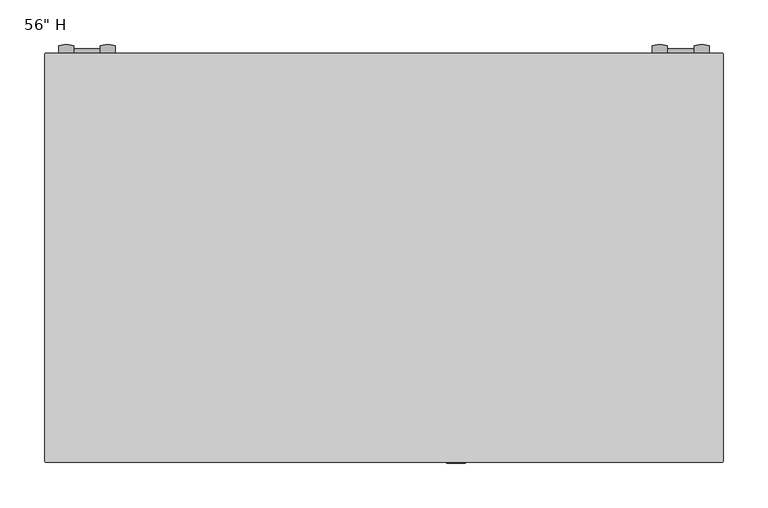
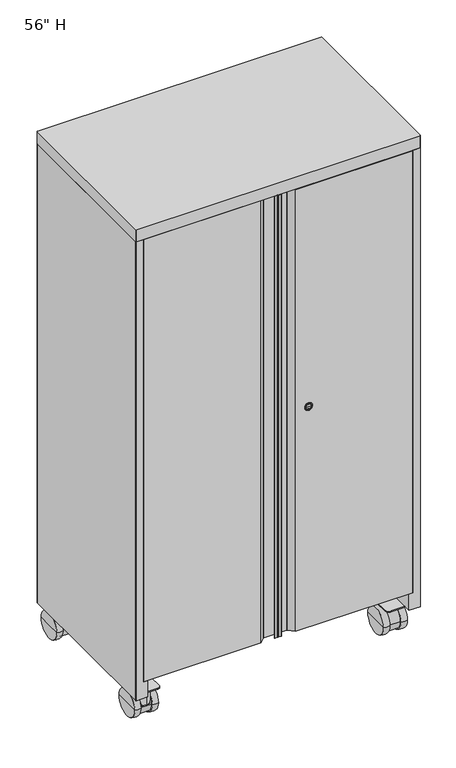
"""IFC4 building model written with IfcOpenShell, lengths in millimetres: furniture geometry."""

from ifc_helpers import new_model, si_unit, point, frame, frame_2d, origin, place, context, project, spatial, polyline, circle_curve, ellipse_curve, trimmed, segment, composite_curve, outline, extrude, source, transform, mapped, element, save
from ifc_brep_helpers import plane_surface, cylinder_surface, revolved_surface, advanced_brep


def furniture_2ed382e0(model_context):
    return source(origin(), model_context, "Body", "SolidModel", [
        advanced_brep(
        [(88.6603165, -458.3625601, 761.3872823), (72.9815101, -458.3625601, 761.3872823), (79.6779133, -458.3625601, 761.3872823), (79.6779133, -458.3625601, 757.8880767), (81.9639133, -458.3625601, 757.8880767), (81.9639133, -458.3625601, 761.3872823), (81.9639133, -458.3625601, 765.8652642), (79.6779133, -458.3625601, 765.8652642), (88.6603165, -459.4055635, 761.3872823), (72.9815101, -459.4055635, 761.3872823), (88.1158199, -459.9500601, 761.3872823), (73.5260067, -459.9500601, 761.3872823), (81.9639133, -459.9500601, 761.3872823), (81.9639133, -459.9500601, 757.8880767), (79.6779133, -459.9500601, 757.8880767), (79.6779133, -459.9500601, 761.3872823), (79.6779133, -459.9500601, 765.8652642), (81.9639133, -459.9500601, 765.8652642)],
        [
            (0, 1, circle_curve(frame((80.8209133, -458.3625601, 761.3872823), z_axis=(0.0, 1.0, 0.0), x_axis=(-1.0, 0.0, 0.0)), 7.8394032)),
            (1, 2),
            (2, 3),
            (3, 4),
            (4, 5),
            (5, 0),
            (1, 0, circle_curve(frame((80.8209133, -458.3625601, 761.3872823), z_axis=(0.0, 1.0, 0.0), x_axis=(-1.0, 0.0, 0.0)), 7.8394032)),
            (5, 6),
            (6, 7),
            (7, 2),
            (0, 8),
            (8, 9, circle_curve(frame((80.8209133, -459.4055635, 761.3872823), z_axis=(0.0, 1.0, 0.0), x_axis=(-1.0, 0.0, 0.0)), 7.8394032)),
            (9, 1),
            (9, 8, circle_curve(frame((80.8209133, -459.4055635, 761.3872823), z_axis=(0.0, 1.0, 0.0), x_axis=(-1.0, 0.0, 0.0)), 7.8394032)),
            (8, 10, circle_curve(frame((88.1158199, -459.4055635, 761.3872823), z_axis=(0.0, 0.0, -1.0), x_axis=(-1.0, 0.0, 0.0)), 0.5444966)),
            (10, 11, circle_curve(frame((80.8209133, -459.9500601, 761.3872823), z_axis=(0.0, 1.0, 0.0), x_axis=(-1.0, 0.0, 0.0)), 7.2949066)),
            (11, 9, circle_curve(frame((73.5260067, -459.4055635, 761.3872823), z_axis=(0.0, 0.0, -1.0), x_axis=(1.0, 0.0, 0.0)), 0.5444966)),
            (11, 10, circle_curve(frame((80.8209133, -459.9500601, 761.3872823), z_axis=(0.0, 1.0, 0.0), x_axis=(-1.0, 0.0, 0.0)), 7.2949066)),
            (10, 12),
            (12, 13),
            (13, 14),
            (14, 15),
            (15, 11),
            (15, 16),
            (16, 17),
            (17, 12),
            (6, 17),
            (16, 7),
            (14, 3),
            (13, 4),
        ],
        [
            plane_surface(frame((80.8209133, -458.3625601, 761.3872823), z_axis=(0.0, 1.0, 0.0), x_axis=(-1.0, 0.0, 0.0))),
            cylinder_surface(frame((80.8209133, -458.3625601, 761.3872823), z_axis=(0.0, -1.0, 0.0), x_axis=(-1.0, 0.0, 0.0)), 7.8394032),
            revolved_surface(trimmed(ellipse_curve(frame((73.5260067, -459.4055635, 761.3872823), z_axis=(0.0, 0.0, 1.0), x_axis=(1.0, 0.0, 0.0)), 0.5444966, 0.5444966), [point((72.9815101, -459.4055635, 761.3872823))], [point((73.5260067, -459.9500601, 761.3872823))], True, "CARTESIAN"), (80.8209133, -458.3625601, 761.3872823), (0.0, -1.0, 0.0)),
            plane_surface(frame((80.8209133, -459.9500601, 761.3872823), z_axis=(0.0, -1.0, 0.0), x_axis=(-1.0, 0.0, 0.0))),
            plane_surface(frame((81.9639133, -461.8140845, 765.8652642), z_axis=(0.0, 0.0, -1.0), x_axis=(0.0, 1.0, 0.0))),
            plane_surface(frame((79.6779133, -461.8140845, 765.8652642), z_axis=(1.0, 0.0, 0.0), x_axis=(0.0, 1.0, 0.0))),
            plane_surface(frame((79.6779133, -461.8140845, 757.8880767), z_axis=(0.0, 0.0, 1.0), x_axis=(0.0, 1.0, 0.0))),
            plane_surface(frame((81.9639133, -461.8140845, 757.8880767), z_axis=(-1.0, 0.0, 0.0), x_axis=(0.0, 1.0, 0.0))),
        ],
        [
            (0, [[1, 2, 3, 4, 5, 6]]),
            (0, [[7, -6, 8, 9, 10, -2]]),
            (1, [[-1, 11, 12, 13]]),
            (1, [[-7, -13, 14, -11]]),
            (2, [[-12, 15, 16, 17]]),
            (2, [[-14, -17, 18, -15]]),
            (3, [[-16, 19, 20, 21, 22, 23]]),
            (3, [[-18, -23, 24, 25, 26, -19]]),
            (4, [[27, -25, 28, -9]]),
            (5, [[-28, -24, -22, 29, -3, -10]]),
            (6, [[-29, -21, 30, -4]]),
            (7, [[-27, -8, -5, -30, -20, -26]]),
        ],
    ),
        advanced_brep(
        [(91.2894727, -459.1486557, 761.3872823), (70.3523539, -459.1486557, 761.3872823), (70.3523539, -458.3625601, 761.3872823), (91.2894727, -458.3625601, 761.3872823), (90.4880683, -459.9500601, 761.3872823), (71.1537583, -459.9500601, 761.3872823), (88.8219133, -459.9500601, 761.3872823), (72.8199133, -459.9500601, 761.3872823), (88.8219133, -458.3625601, 761.3872823), (72.8199133, -458.3625601, 761.3872823)],
        [
            (0, 1, circle_curve(frame((80.8209133, -459.1486557, 761.3872823), z_axis=(0.0, 1.0, 0.0), x_axis=(-1.0, 0.0, 0.0)), 10.4685594)),
            (1, 2),
            (2, 3, circle_curve(frame((80.8209133, -458.3625601, 761.3872823), z_axis=(0.0, -1.0, 0.0), x_axis=(-1.0, 0.0, 0.0)), 10.4685594)),
            (3, 0),
            (1, 0, circle_curve(frame((80.8209133, -459.1486557, 761.3872823), z_axis=(0.0, 1.0, 0.0), x_axis=(-1.0, 0.0, 0.0)), 10.4685594)),
            (3, 2, circle_curve(frame((80.8209133, -458.3625601, 761.3872823), z_axis=(0.0, -1.0, 0.0), x_axis=(-1.0, 0.0, 0.0)), 10.4685594)),
            (4, 5, circle_curve(frame((80.8209133, -459.9500601, 761.3872823), z_axis=(0.0, 1.0, 0.0), x_axis=(-1.0, 0.0, 0.0)), 9.667155)),
            (5, 1, circle_curve(frame((71.1537583, -459.1486557, 761.3872823), z_axis=(0.0, 0.0, -1.0), x_axis=(1.0, 0.0, 0.0)), 0.8014044)),
            (0, 4, circle_curve(frame((90.4880683, -459.1486557, 761.3872823), z_axis=(0.0, 0.0, -1.0), x_axis=(-1.0, 0.0, 0.0)), 0.8014044)),
            (5, 4, circle_curve(frame((80.8209133, -459.9500601, 761.3872823), z_axis=(0.0, 1.0, 0.0), x_axis=(-1.0, 0.0, 0.0)), 9.667155)),
            (6, 7, circle_curve(frame((80.8209133, -459.9500601, 761.3872823), z_axis=(0.0, 1.0, 0.0), x_axis=(-1.0, 0.0, 0.0)), 8.001)),
            (7, 5),
            (4, 6),
            (7, 6, circle_curve(frame((80.8209133, -459.9500601, 761.3872823), z_axis=(0.0, 1.0, 0.0), x_axis=(-1.0, 0.0, 0.0)), 8.001)),
            (8, 9, circle_curve(frame((80.8209133, -458.3625601, 761.3872823), z_axis=(0.0, 1.0, 0.0), x_axis=(-1.0, 0.0, 0.0)), 8.001)),
            (9, 7),
            (6, 8),
            (9, 8, circle_curve(frame((80.8209133, -458.3625601, 761.3872823), z_axis=(0.0, 1.0, 0.0), x_axis=(-1.0, 0.0, 0.0)), 8.001)),
            (2, 9),
            (8, 3),
        ],
        [
            cylinder_surface(frame((80.8209133, -458.3625601, 761.3872823), z_axis=(0.0, -1.0, 0.0), x_axis=(-1.0, 0.0, 0.0)), 10.4685594),
            revolved_surface(trimmed(ellipse_curve(frame((71.1537583, -459.1486557, 761.3872823), z_axis=(0.0, 0.0, 1.0), x_axis=(1.0, 0.0, 0.0)), 0.8014044, 0.8014044), [point((70.3523539, -459.1486557, 761.3872823))], [point((71.1537583, -459.9500601, 761.3872823))], True, "CARTESIAN"), (80.8209133, -458.3625601, 761.3872823), (0.0, -1.0, 0.0)),
            plane_surface(frame((80.8209133, -459.9500601, 761.3872823), z_axis=(0.0, -1.0, 0.0), x_axis=(-1.0, 0.0, 0.0))),
            revolved_surface(polyline([(72.8199133, -459.9500601, 761.3872823), (72.8199133, -458.3625601, 761.3872823)]), (80.8209133, -458.3625601, 761.3872823), (0.0, -1.0, 0.0)),
            plane_surface(frame((80.8209133, -458.3625601, 761.3872823), z_axis=(0.0, 1.0, 0.0), x_axis=(-1.0, 0.0, 0.0))),
        ],
        [
            (0, [[1, 2, 3, 4]]),
            (0, [[5, -4, 6, -2]]),
            (1, [[7, 8, -1, 9]]),
            (1, [[10, -9, -5, -8]]),
            (2, [[11, 12, -7, 13]]),
            (2, [[14, -13, -10, -12]]),
            (3, [[15, 16, -11, 17]]),
            (3, [[18, -17, -14, -16]]),
            (4, [[-3, 19, -15, 20]]),
            (4, [[-6, -20, -18, -19]]),
        ],
    ),
        extrude(outline(composite_curve([segment(trimmed(circle_curve(frame_2d((359.8912317, -444.4487543)), 1.7488347), [point((359.8912317, -442.6999196))], [point((361.6400664, -444.4487543))], False, "CARTESIAN"), True, "CONTINUOUS"), segment(polyline([(361.6400664, -444.4487543), (361.6400664, -456.8847713)]), True, "CONTINUOUS"), segment(trimmed(circle_curve(frame_2d((359.9571474, -456.8847713)), 1.682919), [point((361.6400664, -456.8847713))], [point((359.9571474, -458.5676903))], False, "CARTESIAN"), True, "CONTINUOUS"), segment(polyline([(359.9571474, -458.5676903), (45.8720499, -458.5676903), (31.3092055, -444.0048817)]), True, "CONTINUOUS"), segment(trimmed(circle_curve(frame_2d((30.1499168, -445.1641732)), 1.6394839), [point((31.3092055, -444.0048817))], [point((30.1514841, -443.5246901))], True, "CARTESIAN"), True, "CONTINUOUS"), segment(polyline([(30.1514841, -443.5246901), (1.648086, -443.4974421)]), True, "CONTINUOUS"), segment(trimmed(circle_curve(frame_2d((1.6473254, -444.293138)), 0.7956963), [point((1.648086, -443.4974421))], [point((0.8516291, -444.2931415))], True, "CARTESIAN"), True, "CONTINUOUS"), segment(polyline([(0.8516291, -444.2931415), (0.8516804, -456.0246332)]), True, "CONTINUOUS"), segment(trimmed(circle_curve(frame_2d((1.4004305, -456.0246308)), 0.5487501), [point((0.8516804, -456.0246332))], [point((1.4004305, -456.5733809))], True, "CARTESIAN"), True, "CONTINUOUS"), segment(polyline([(1.4004305, -456.5733809), (8.5347577, -456.5733809)]), True, "CONTINUOUS"), segment(trimmed(circle_curve(frame_2d((8.5347577, -457.5705356)), 0.9971547), [point((8.5347577, -456.5733809))], [point((8.5347577, -458.5676903))], False, "CARTESIAN"), True, "CONTINUOUS"), segment(polyline([(8.5347577, -458.5676903), (1.6618455, -458.5676903)]), True, "CONTINUOUS"), segment(trimmed(circle_curve(frame_2d((1.6618455, -456.9058447)), 1.6618455), [point((1.6618455, -458.5676903))], [point((0.0, -456.9058447))], False, "CARTESIAN"), True, "CONTINUOUS"), segment(polyline([(0.0, -456.9058447), (0.0, -444.5770588)]), True, "CONTINUOUS"), segment(trimmed(circle_curve(frame_2d((1.8771392, -444.5770588)), 1.8771392), [point((0.0, -444.5770588))], [point((1.8771392, -442.6999196))], False, "CARTESIAN"), True, "CONTINUOUS"), segment(polyline([(1.8771392, -442.6999196), (359.8912317, -442.6999196)]), True, "CONTINUOUS")], self_intersect=False)), frame((0.0, 0.0, 137.2588286), z_axis=(0.0, 0.0, 1.0), x_axis=(1.0, 0.0, 0.0)), (0.0, 0.0, 1.0), 1249.2356835),
        extrude(outline(composite_curve([segment(polyline([(-359.8912317, -442.6999196), (-1.8771392, -442.6999196)]), True, "CONTINUOUS"), segment(trimmed(circle_curve(frame_2d((-1.8771392, -444.5770588)), 1.8771392), [point((-1.8771392, -442.6999196))], [point((0.0, -444.5770588))], False, "CARTESIAN"), True, "CONTINUOUS"), segment(polyline([(0.0, -444.5770588), (0.0, -456.9058447)]), True, "CONTINUOUS"), segment(trimmed(circle_curve(frame_2d((-1.6618455, -456.9058447)), 1.6618455), [point((0.0, -456.9058447))], [point((-1.6618455, -458.5676903))], False, "CARTESIAN"), True, "CONTINUOUS"), segment(polyline([(-1.6618455, -458.5676903), (-8.5347577, -458.5676903)]), True, "CONTINUOUS"), segment(trimmed(circle_curve(frame_2d((-8.5347577, -457.5705356)), 0.9971547), [point((-8.5347577, -458.5676903))], [point((-8.5347577, -456.5733809))], False, "CARTESIAN"), True, "CONTINUOUS"), segment(polyline([(-8.5347577, -456.5733809), (-1.4004305, -456.5733809)]), True, "CONTINUOUS"), segment(trimmed(circle_curve(frame_2d((-1.4004305, -456.0246308)), 0.5487501), [point((-1.4004305, -456.5733809))], [point((-0.8516804, -456.0246332))], True, "CARTESIAN"), True, "CONTINUOUS"), segment(polyline([(-0.8516804, -456.0246332), (-0.8516291, -444.2931415)]), True, "CONTINUOUS"), segment(trimmed(circle_curve(frame_2d((-1.6473254, -444.293138)), 0.7956963), [point((-0.8516291, -444.2931415))], [point((-1.648086, -443.4974421))], True, "CARTESIAN"), True, "CONTINUOUS"), segment(polyline([(-1.648086, -443.4974421), (-30.1514841, -443.5246901)]), True, "CONTINUOUS"), segment(trimmed(circle_curve(frame_2d((-30.1499168, -445.1641732)), 1.6394839), [point((-30.1514841, -443.5246901))], [point((-31.3092055, -444.0048817))], True, "CARTESIAN"), True, "CONTINUOUS"), segment(polyline([(-31.3092055, -444.0048817), (-45.8720499, -458.5676903), (-359.9571474, -458.5676903)]), True, "CONTINUOUS"), segment(trimmed(circle_curve(frame_2d((-359.9571474, -456.8847713)), 1.682919), [point((-359.9571474, -458.5676903))], [point((-361.6400664, -456.8847713))], False, "CARTESIAN"), True, "CONTINUOUS"), segment(polyline([(-361.6400664, -456.8847713), (-361.6400664, -444.4487543)]), True, "CONTINUOUS"), segment(trimmed(circle_curve(frame_2d((-359.8912317, -444.4487543)), 1.7488347), [point((-361.6400664, -444.4487543))], [point((-359.8912317, -442.6999196))], False, "CARTESIAN"), True, "CONTINUOUS")], self_intersect=False)), frame((0.0, 0.0, 137.2588286), z_axis=(0.0, 0.0, 1.0), x_axis=(1.0, 0.0, 0.0)), (0.0, 0.0, 1.0), 1249.2356835),
        advanced_brep(
        [(-301.463296, -425.1483141, 37.3595315), (-301.463296, -352.6668371, 37.3595315), (-301.463296, -388.9075756, 37.3595315), (-318.2202446, -425.1483141, 37.3595315), (-318.2202446, -352.6668371, 37.3595315), (-318.2202446, -421.9716185, 37.3595315), (-318.2202446, -355.8435328, 37.3595315), (-348.2146314, -421.9716185, 37.3595315), (-348.2146314, -355.8435328, 37.3595315), (-348.2146314, -425.1483141, 37.3595315), (-348.2146314, -352.6668371, 37.3595315), (-364.9632967, -425.1483141, 37.3595315), (-364.9632967, -352.6668371, 37.3595315), (-364.9632967, -388.9075756, 37.3595315)],
        [
            (0, 1, circle_curve(frame((-301.463296, -388.9075756, 37.3595315), z_axis=(1.0, 0.0, 0.0), x_axis=(0.0, 1.0, 0.0)), 36.2407385)),
            (1, 2),
            (2, 0),
            (1, 0, circle_curve(frame((-301.463296, -388.9075756, 37.3595315), z_axis=(1.0, 0.0, 0.0), x_axis=(0.0, 1.0, 0.0)), 36.2407385)),
            (3, 4, circle_curve(frame((-318.2202446, -388.9075756, 37.3595315), z_axis=(1.0, 0.0, 0.0), x_axis=(0.0, 1.0, 0.0)), 36.2407385)),
            (4, 1, circle_curve(frame((-309.8417703, -379.9216665, 37.3595315), z_axis=(0.0, 0.0, -1.0), x_axis=(-1.0, 0.0, 0.0)), 28.5135855)),
            (0, 3, circle_curve(frame((-309.8417703, -397.8934847, 37.3595315), z_axis=(0.0, 0.0, -1.0), x_axis=(-1.0, 0.0, 0.0)), 28.5135855)),
            (4, 3, circle_curve(frame((-318.2202446, -388.9075756, 37.3595315), z_axis=(1.0, 0.0, 0.0), x_axis=(0.0, 1.0, 0.0)), 36.2407385)),
            (5, 6, circle_curve(frame((-318.2202446, -388.9075756, 37.3595315), z_axis=(1.0, 0.0, 0.0), x_axis=(0.0, 1.0, 0.0)), 33.0640429)),
            (6, 4),
            (3, 5),
            (6, 5, circle_curve(frame((-318.2202446, -388.9075756, 37.3595315), z_axis=(1.0, 0.0, 0.0), x_axis=(0.0, 1.0, 0.0)), 33.0640429)),
            (7, 8, circle_curve(frame((-348.2146314, -388.9075756, 37.3595315), z_axis=(1.0, 0.0, 0.0), x_axis=(0.0, 1.0, 0.0)), 33.0640429)),
            (8, 6),
            (5, 7),
            (8, 7, circle_curve(frame((-348.2146314, -388.9075756, 37.3595315), z_axis=(1.0, 0.0, 0.0), x_axis=(0.0, 1.0, 0.0)), 33.0640429)),
            (9, 10, circle_curve(frame((-348.2146314, -388.9075756, 37.3595315), z_axis=(1.0, 0.0, 0.0), x_axis=(0.0, 1.0, 0.0)), 36.2407385)),
            (10, 8),
            (7, 9),
            (10, 9, circle_curve(frame((-348.2146314, -388.9075756, 37.3595315), z_axis=(1.0, 0.0, 0.0), x_axis=(0.0, 1.0, 0.0)), 36.2407385)),
            (11, 12, circle_curve(frame((-364.9632967, -388.9075756, 37.3595315), z_axis=(1.0, 0.0, 0.0), x_axis=(0.0, 1.0, 0.0)), 36.2407385)),
            (12, 10, circle_curve(frame((-356.5889641, -379.880126, 37.3595315), z_axis=(0.0, 0.0, -1.0), x_axis=(-1.0, 0.0, 0.0)), 28.472663)),
            (9, 11, circle_curve(frame((-356.5889641, -397.9350253, 37.3595315), z_axis=(0.0, 0.0, -1.0), x_axis=(-1.0, 0.0, 0.0)), 28.472663)),
            (12, 11, circle_curve(frame((-364.9632967, -388.9075756, 37.3595315), z_axis=(1.0, 0.0, 0.0), x_axis=(0.0, 1.0, 0.0)), 36.2407385)),
            (13, 12),
            (11, 13),
        ],
        [
            plane_surface(frame((-301.463296, -388.9075756, 37.3595315), z_axis=(1.0, 0.0, 0.0), x_axis=(0.0, 1.0, 0.0))),
            revolved_surface(trimmed(ellipse_curve(frame((-309.8417703, -379.9216665, 37.3595315), z_axis=(0.0, 0.0, 1.0), x_axis=(-1.0, 0.0, 0.0)), 28.5135855, 28.5135855), [point((-301.463296, -352.6668371, 37.3595315))], [point((-318.2202446, -352.6668371, 37.3595315))], True, "CARTESIAN"), (-325.591828, -388.9075756, 37.3595315), (-1.0, 0.0, 0.0)),
            plane_surface(frame((-318.2202446, -388.9075756, 37.3595315), z_axis=(-1.0, 0.0, 0.0), x_axis=(0.0, 1.0, 0.0))),
            cylinder_surface(frame((-325.591828, -388.9075756, 37.3595315), z_axis=(-1.0, 0.0, 0.0), x_axis=(0.0, 1.0, 0.0)), 33.0640429),
            plane_surface(frame((-348.2146314, -388.9075756, 37.3595315), z_axis=(1.0, 0.0, 0.0), x_axis=(0.0, 1.0, 0.0))),
            revolved_surface(trimmed(ellipse_curve(frame((-356.5889641, -379.880126, 37.3595315), z_axis=(0.0, 0.0, 1.0), x_axis=(-1.0, 0.0, 0.0)), 28.472663, 28.472663), [point((-348.2146314, -352.6668371, 37.3595315))], [point((-364.9632967, -352.6668371, 37.3595315))], True, "CARTESIAN"), (-325.591828, -388.9075756, 37.3595315), (-1.0, 0.0, 0.0)),
            plane_surface(frame((-364.9632967, -388.9075756, 37.3595315), z_axis=(-1.0, 0.0, 0.0), x_axis=(0.0, 1.0, 0.0))),
        ],
        [
            (0, [[1, 2, 3]]),
            (0, [[4, -3, -2]]),
            (1, [[5, 6, -1, 7]]),
            (1, [[8, -7, -4, -6]]),
            (2, [[9, 10, -5, 11]]),
            (2, [[12, -11, -8, -10]]),
            (3, [[13, 14, -9, 15]]),
            (3, [[16, -15, -12, -14]]),
            (4, [[17, 18, -13, 19]]),
            (4, [[20, -19, -16, -18]]),
            (5, [[21, 22, -17, 23]]),
            (5, [[24, -23, -20, -22]]),
            (6, [[25, -21, 26]]),
            (6, [[-26, -24, -25]]),
        ],
    ),
        advanced_brep(
        [(364.7809449, -425.1483141, 37.3595315), (364.7809449, -352.6668371, 37.3595315), (364.7809449, -388.9075756, 37.3595315), (348.0239963, -425.1483141, 37.3595315), (348.0239963, -352.6668371, 37.3595315), (348.0239963, -421.9716185, 37.3595315), (348.0239963, -355.8435328, 37.3595315), (318.0296095, -421.9716185, 37.3595315), (318.0296095, -355.8435328, 37.3595315), (318.0296095, -425.1483141, 37.3595315), (318.0296095, -352.6668371, 37.3595315), (301.2809442, -425.1483141, 37.3595315), (301.2809442, -352.6668371, 37.3595315), (301.2809442, -388.9075756, 37.3595315)],
        [
            (0, 1, circle_curve(frame((364.7809449, -388.9075756, 37.3595315), z_axis=(1.0, 0.0, 0.0), x_axis=(0.0, 1.0, 0.0)), 36.2407385)),
            (1, 2),
            (2, 0),
            (1, 0, circle_curve(frame((364.7809449, -388.9075756, 37.3595315), z_axis=(1.0, 0.0, 0.0), x_axis=(0.0, 1.0, 0.0)), 36.2407385)),
            (3, 4, circle_curve(frame((348.0239963, -388.9075756, 37.3595315), z_axis=(1.0, 0.0, 0.0), x_axis=(0.0, 1.0, 0.0)), 36.2407385)),
            (4, 1, circle_curve(frame((356.4024706, -379.9216665, 37.3595315), z_axis=(0.0, 0.0, -1.0), x_axis=(-1.0, 0.0, 0.0)), 28.5135855)),
            (0, 3, circle_curve(frame((356.4024706, -397.8934847, 37.3595315), z_axis=(0.0, 0.0, -1.0), x_axis=(-1.0, 0.0, 0.0)), 28.5135855)),
            (4, 3, circle_curve(frame((348.0239963, -388.9075756, 37.3595315), z_axis=(1.0, 0.0, 0.0), x_axis=(0.0, 1.0, 0.0)), 36.2407385)),
            (5, 6, circle_curve(frame((348.0239963, -388.9075756, 37.3595315), z_axis=(1.0, 0.0, 0.0), x_axis=(0.0, 1.0, 0.0)), 33.0640429)),
            (6, 4),
            (3, 5),
            (6, 5, circle_curve(frame((348.0239963, -388.9075756, 37.3595315), z_axis=(1.0, 0.0, 0.0), x_axis=(0.0, 1.0, 0.0)), 33.0640429)),
            (7, 8, circle_curve(frame((318.0296095, -388.9075756, 37.3595315), z_axis=(1.0, 0.0, 0.0), x_axis=(0.0, 1.0, 0.0)), 33.0640429)),
            (8, 6),
            (5, 7),
            (8, 7, circle_curve(frame((318.0296095, -388.9075756, 37.3595315), z_axis=(1.0, 0.0, 0.0), x_axis=(0.0, 1.0, 0.0)), 33.0640429)),
            (9, 10, circle_curve(frame((318.0296095, -388.9075756, 37.3595315), z_axis=(1.0, 0.0, 0.0), x_axis=(0.0, 1.0, 0.0)), 36.2407385)),
            (10, 8),
            (7, 9),
            (10, 9, circle_curve(frame((318.0296095, -388.9075756, 37.3595315), z_axis=(1.0, 0.0, 0.0), x_axis=(0.0, 1.0, 0.0)), 36.2407385)),
            (11, 12, circle_curve(frame((301.2809442, -388.9075756, 37.3595315), z_axis=(1.0, 0.0, 0.0), x_axis=(0.0, 1.0, 0.0)), 36.2407385)),
            (12, 10, circle_curve(frame((309.6552768, -379.880126, 37.3595315), z_axis=(0.0, 0.0, -1.0), x_axis=(-1.0, 0.0, 0.0)), 28.472663)),
            (9, 11, circle_curve(frame((309.6552768, -397.9350253, 37.3595315), z_axis=(0.0, 0.0, -1.0), x_axis=(-1.0, 0.0, 0.0)), 28.472663)),
            (12, 11, circle_curve(frame((301.2809442, -388.9075756, 37.3595315), z_axis=(1.0, 0.0, 0.0), x_axis=(0.0, 1.0, 0.0)), 36.2407385)),
            (13, 12),
            (11, 13),
        ],
        [
            plane_surface(frame((364.7809449, -388.9075756, 37.3595315), z_axis=(1.0, 0.0, 0.0), x_axis=(0.0, 1.0, 0.0))),
            revolved_surface(trimmed(ellipse_curve(frame((356.4024706, -379.9216665, 37.3595315), z_axis=(0.0, 0.0, 1.0), x_axis=(-1.0, 0.0, 0.0)), 28.5135855, 28.5135855), [point((364.7809449, -352.6668371, 37.3595315))], [point((348.0239963, -352.6668371, 37.3595315))], True, "CARTESIAN"), (340.6524129, -388.9075756, 37.3595315), (-1.0, 0.0, 0.0)),
            plane_surface(frame((348.0239963, -388.9075756, 37.3595315), z_axis=(-1.0, 0.0, 0.0), x_axis=(0.0, 1.0, 0.0))),
            cylinder_surface(frame((340.6524129, -388.9075756, 37.3595315), z_axis=(-1.0, 0.0, 0.0), x_axis=(0.0, 1.0, 0.0)), 33.0640429),
            plane_surface(frame((318.0296095, -388.9075756, 37.3595315), z_axis=(1.0, 0.0, 0.0), x_axis=(0.0, 1.0, 0.0))),
            revolved_surface(trimmed(ellipse_curve(frame((309.6552768, -379.880126, 37.3595315), z_axis=(0.0, 0.0, 1.0), x_axis=(-1.0, 0.0, 0.0)), 28.472663, 28.472663), [point((318.0296095, -352.6668371, 37.3595315))], [point((301.2809442, -352.6668371, 37.3595315))], True, "CARTESIAN"), (340.6524129, -388.9075756, 37.3595315), (-1.0, 0.0, 0.0)),
            plane_surface(frame((301.2809442, -388.9075756, 37.3595315), z_axis=(-1.0, 0.0, 0.0), x_axis=(0.0, 1.0, 0.0))),
        ],
        [
            (0, [[1, 2, 3]]),
            (0, [[4, -3, -2]]),
            (1, [[5, 6, -1, 7]]),
            (1, [[8, -7, -4, -6]]),
            (2, [[9, 10, -5, 11]]),
            (2, [[12, -11, -8, -10]]),
            (3, [[13, 14, -9, 15]]),
            (3, [[16, -15, -12, -14]]),
            (4, [[17, 18, -13, 19]]),
            (4, [[20, -19, -16, -18]]),
            (5, [[21, 22, -17, 23]]),
            (5, [[24, -23, -20, -22]]),
            (6, [[25, -21, 26]]),
            (6, [[-26, -24, -25]]),
        ],
    ),
        advanced_brep(
        [(-301.463296, -63.6717048, 37.3595315), (-301.463296, 8.8097722, 37.3595315), (-301.463296, -27.4309663, 37.3595315), (-318.2202446, -63.6717048, 37.3595315), (-318.2202446, 8.8097722, 37.3595315), (-318.2202446, -60.4950092, 37.3595315), (-318.2202446, 5.6330766, 37.3595315), (-348.2146314, -60.4950092, 37.3595315), (-348.2146314, 5.6330766, 37.3595315), (-348.2146314, -63.6717048, 37.3595315), (-348.2146314, 8.8097722, 37.3595315), (-364.9632967, -63.6717048, 37.3595315), (-364.9632967, 8.8097722, 37.3595315), (-364.9632967, -27.4309663, 37.3595315)],
        [
            (0, 1, circle_curve(frame((-301.463296, -27.4309663, 37.3595315), z_axis=(1.0, 0.0, 0.0), x_axis=(0.0, 1.0, 0.0)), 36.2407385)),
            (1, 2),
            (2, 0),
            (1, 0, circle_curve(frame((-301.463296, -27.4309663, 37.3595315), z_axis=(1.0, 0.0, 0.0), x_axis=(0.0, 1.0, 0.0)), 36.2407385)),
            (3, 4, circle_curve(frame((-318.2202446, -27.4309663, 37.3595315), z_axis=(1.0, 0.0, 0.0), x_axis=(0.0, 1.0, 0.0)), 36.2407385)),
            (4, 1, circle_curve(frame((-309.8417703, -18.4450572, 37.3595315), z_axis=(0.0, 0.0, -1.0), x_axis=(-1.0, 0.0, 0.0)), 28.5135855)),
            (0, 3, circle_curve(frame((-309.8417703, -36.4168754, 37.3595315), z_axis=(0.0, 0.0, -1.0), x_axis=(-1.0, 0.0, 0.0)), 28.5135855)),
            (4, 3, circle_curve(frame((-318.2202446, -27.4309663, 37.3595315), z_axis=(1.0, 0.0, 0.0), x_axis=(0.0, 1.0, 0.0)), 36.2407385)),
            (5, 6, circle_curve(frame((-318.2202446, -27.4309663, 37.3595315), z_axis=(1.0, 0.0, 0.0), x_axis=(0.0, 1.0, 0.0)), 33.0640429)),
            (6, 4),
            (3, 5),
            (6, 5, circle_curve(frame((-318.2202446, -27.4309663, 37.3595315), z_axis=(1.0, 0.0, 0.0), x_axis=(0.0, 1.0, 0.0)), 33.0640429)),
            (7, 8, circle_curve(frame((-348.2146314, -27.4309663, 37.3595315), z_axis=(1.0, 0.0, 0.0), x_axis=(0.0, 1.0, 0.0)), 33.0640429)),
            (8, 6),
            (5, 7),
            (8, 7, circle_curve(frame((-348.2146314, -27.4309663, 37.3595315), z_axis=(1.0, 0.0, 0.0), x_axis=(0.0, 1.0, 0.0)), 33.0640429)),
            (9, 10, circle_curve(frame((-348.2146314, -27.4309663, 37.3595315), z_axis=(1.0, 0.0, 0.0), x_axis=(0.0, 1.0, 0.0)), 36.2407385)),
            (10, 8),
            (7, 9),
            (10, 9, circle_curve(frame((-348.2146314, -27.4309663, 37.3595315), z_axis=(1.0, 0.0, 0.0), x_axis=(0.0, 1.0, 0.0)), 36.2407385)),
            (11, 12, circle_curve(frame((-364.9632967, -27.4309663, 37.3595315), z_axis=(1.0, 0.0, 0.0), x_axis=(0.0, 1.0, 0.0)), 36.2407385)),
            (12, 10, circle_curve(frame((-356.5889641, -18.4035167, 37.3595315), z_axis=(0.0, 0.0, -1.0), x_axis=(-1.0, 0.0, 0.0)), 28.472663)),
            (9, 11, circle_curve(frame((-356.5889641, -36.4584159, 37.3595315), z_axis=(0.0, 0.0, -1.0), x_axis=(-1.0, 0.0, 0.0)), 28.472663)),
            (12, 11, circle_curve(frame((-364.9632967, -27.4309663, 37.3595315), z_axis=(1.0, 0.0, 0.0), x_axis=(0.0, 1.0, 0.0)), 36.2407385)),
            (13, 12),
            (11, 13),
        ],
        [
            plane_surface(frame((-301.463296, -27.4309663, 37.3595315), z_axis=(1.0, 0.0, 0.0), x_axis=(0.0, 1.0, 0.0))),
            revolved_surface(trimmed(ellipse_curve(frame((-309.8417703, -18.4450572, 37.3595315), z_axis=(0.0, 0.0, 1.0), x_axis=(-1.0, 0.0, 0.0)), 28.5135855, 28.5135855), [point((-301.463296, 8.8097722, 37.3595315))], [point((-318.2202446, 8.8097722, 37.3595315))], True, "CARTESIAN"), (-325.591828, -27.4309663, 37.3595315), (-1.0, 0.0, 0.0)),
            plane_surface(frame((-318.2202446, -27.4309663, 37.3595315), z_axis=(-1.0, 0.0, 0.0), x_axis=(0.0, 1.0, 0.0))),
            cylinder_surface(frame((-325.591828, -27.4309663, 37.3595315), z_axis=(-1.0, 0.0, 0.0), x_axis=(0.0, 1.0, 0.0)), 33.0640429),
            plane_surface(frame((-348.2146314, -27.4309663, 37.3595315), z_axis=(1.0, 0.0, 0.0), x_axis=(0.0, 1.0, 0.0))),
            revolved_surface(trimmed(ellipse_curve(frame((-356.5889641, -18.4035167, 37.3595315), z_axis=(0.0, 0.0, 1.0), x_axis=(-1.0, 0.0, 0.0)), 28.472663, 28.472663), [point((-348.2146314, 8.8097722, 37.3595315))], [point((-364.9632967, 8.8097722, 37.3595315))], True, "CARTESIAN"), (-325.591828, -27.4309663, 37.3595315), (-1.0, 0.0, 0.0)),
            plane_surface(frame((-364.9632967, -27.4309663, 37.3595315), z_axis=(-1.0, 0.0, 0.0), x_axis=(0.0, 1.0, 0.0))),
        ],
        [
            (0, [[1, 2, 3]]),
            (0, [[4, -3, -2]]),
            (1, [[5, 6, -1, 7]]),
            (1, [[8, -7, -4, -6]]),
            (2, [[9, 10, -5, 11]]),
            (2, [[12, -11, -8, -10]]),
            (3, [[13, 14, -9, 15]]),
            (3, [[16, -15, -12, -14]]),
            (4, [[17, 18, -13, 19]]),
            (4, [[20, -19, -16, -18]]),
            (5, [[21, 22, -17, 23]]),
            (5, [[24, -23, -20, -22]]),
            (6, [[25, -21, 26]]),
            (6, [[-26, -24, -25]]),
        ],
    ),
        advanced_brep(
        [(364.7809449, -63.6717048, 37.3595315), (364.7809449, 8.8097722, 37.3595315), (364.7809449, -27.4309663, 37.3595315), (348.0239963, -63.6717048, 37.3595315), (348.0239963, 8.8097722, 37.3595315), (348.0239963, -60.4950092, 37.3595315), (348.0239963, 5.6330766, 37.3595315), (318.0296095, -60.4950092, 37.3595315), (318.0296095, 5.6330766, 37.3595315), (318.0296095, -63.6717048, 37.3595315), (318.0296095, 8.8097722, 37.3595315), (301.2809442, -63.6717048, 37.3595315), (301.2809442, 8.8097722, 37.3595315), (301.2809442, -27.4309663, 37.3595315)],
        [
            (0, 1, circle_curve(frame((364.7809449, -27.4309663, 37.3595315), z_axis=(1.0, 0.0, 0.0), x_axis=(0.0, 1.0, 0.0)), 36.2407385)),
            (1, 2),
            (2, 0),
            (1, 0, circle_curve(frame((364.7809449, -27.4309663, 37.3595315), z_axis=(1.0, 0.0, 0.0), x_axis=(0.0, 1.0, 0.0)), 36.2407385)),
            (3, 4, circle_curve(frame((348.0239963, -27.4309663, 37.3595315), z_axis=(1.0, 0.0, 0.0), x_axis=(0.0, 1.0, 0.0)), 36.2407385)),
            (4, 1, circle_curve(frame((356.4024706, -18.4450572, 37.3595315), z_axis=(0.0, 0.0, -1.0), x_axis=(-1.0, 0.0, 0.0)), 28.5135855)),
            (0, 3, circle_curve(frame((356.4024706, -36.4168754, 37.3595315), z_axis=(0.0, 0.0, -1.0), x_axis=(-1.0, 0.0, 0.0)), 28.5135855)),
            (4, 3, circle_curve(frame((348.0239963, -27.4309663, 37.3595315), z_axis=(1.0, 0.0, 0.0), x_axis=(0.0, 1.0, 0.0)), 36.2407385)),
            (5, 6, circle_curve(frame((348.0239963, -27.4309663, 37.3595315), z_axis=(1.0, 0.0, 0.0), x_axis=(0.0, 1.0, 0.0)), 33.0640429)),
            (6, 4),
            (3, 5),
            (6, 5, circle_curve(frame((348.0239963, -27.4309663, 37.3595315), z_axis=(1.0, 0.0, 0.0), x_axis=(0.0, 1.0, 0.0)), 33.0640429)),
            (7, 8, circle_curve(frame((318.0296095, -27.4309663, 37.3595315), z_axis=(1.0, 0.0, 0.0), x_axis=(0.0, 1.0, 0.0)), 33.0640429)),
            (8, 6),
            (5, 7),
            (8, 7, circle_curve(frame((318.0296095, -27.4309663, 37.3595315), z_axis=(1.0, 0.0, 0.0), x_axis=(0.0, 1.0, 0.0)), 33.0640429)),
            (9, 10, circle_curve(frame((318.0296095, -27.4309663, 37.3595315), z_axis=(1.0, 0.0, 0.0), x_axis=(0.0, 1.0, 0.0)), 36.2407385)),
            (10, 8),
            (7, 9),
            (10, 9, circle_curve(frame((318.0296095, -27.4309663, 37.3595315), z_axis=(1.0, 0.0, 0.0), x_axis=(0.0, 1.0, 0.0)), 36.2407385)),
            (11, 12, circle_curve(frame((301.2809442, -27.4309663, 37.3595315), z_axis=(1.0, 0.0, 0.0), x_axis=(0.0, 1.0, 0.0)), 36.2407385)),
            (12, 10, circle_curve(frame((309.6552768, -18.4035167, 37.3595315), z_axis=(0.0, 0.0, -1.0), x_axis=(-1.0, 0.0, 0.0)), 28.472663)),
            (9, 11, circle_curve(frame((309.6552768, -36.4584159, 37.3595315), z_axis=(0.0, 0.0, -1.0), x_axis=(-1.0, 0.0, 0.0)), 28.472663)),
            (12, 11, circle_curve(frame((301.2809442, -27.4309663, 37.3595315), z_axis=(1.0, 0.0, 0.0), x_axis=(0.0, 1.0, 0.0)), 36.2407385)),
            (13, 12),
            (11, 13),
        ],
        [
            plane_surface(frame((364.7809449, -27.4309663, 37.3595315), z_axis=(1.0, 0.0, 0.0), x_axis=(0.0, 1.0, 0.0))),
            revolved_surface(trimmed(ellipse_curve(frame((356.4024706, -18.4450572, 37.3595315), z_axis=(0.0, 0.0, 1.0), x_axis=(-1.0, 0.0, 0.0)), 28.5135855, 28.5135855), [point((364.7809449, 8.8097722, 37.3595315))], [point((348.0239963, 8.8097722, 37.3595315))], True, "CARTESIAN"), (340.6524129, -27.4309663, 37.3595315), (-1.0, 0.0, 0.0)),
            plane_surface(frame((348.0239963, -27.4309663, 37.3595315), z_axis=(-1.0, 0.0, 0.0), x_axis=(0.0, 1.0, 0.0))),
            cylinder_surface(frame((340.6524129, -27.4309663, 37.3595315), z_axis=(-1.0, 0.0, 0.0), x_axis=(0.0, 1.0, 0.0)), 33.0640429),
            plane_surface(frame((318.0296095, -27.4309663, 37.3595315), z_axis=(1.0, 0.0, 0.0), x_axis=(0.0, 1.0, 0.0))),
            revolved_surface(trimmed(ellipse_curve(frame((309.6552768, -18.4035167, 37.3595315), z_axis=(0.0, 0.0, 1.0), x_axis=(-1.0, 0.0, 0.0)), 28.472663, 28.472663), [point((318.0296095, 8.8097722, 37.3595315))], [point((301.2809442, 8.8097722, 37.3595315))], True, "CARTESIAN"), (340.6524129, -27.4309663, 37.3595315), (-1.0, 0.0, 0.0)),
            plane_surface(frame((301.2809442, -27.4309663, 37.3595315), z_axis=(-1.0, 0.0, 0.0), x_axis=(0.0, 1.0, 0.0))),
        ],
        [
            (0, [[1, 2, 3]]),
            (0, [[4, -3, -2]]),
            (1, [[5, 6, -1, 7]]),
            (1, [[8, -7, -4, -6]]),
            (2, [[9, 10, -5, 11]]),
            (2, [[12, -11, -8, -10]]),
            (3, [[13, 14, -9, 15]]),
            (3, [[16, -15, -12, -14]]),
            (4, [[17, 18, -13, 19]]),
            (4, [[20, -19, -16, -18]]),
            (5, [[21, 22, -17, 23]]),
            (5, [[24, -23, -20, -22]]),
            (6, [[25, -21, 26]]),
            (6, [[-26, -24, -25]]),
        ],
    ),
        advanced_brep(
        [(379.6061682, -458.7406421, 1387.6215244), (381.0, -457.3468103, 1387.6215244), (381.0, -1.0914085, 1387.6215244), (379.9085915, 0.0, 1387.6215244), (349.6309118, 0.0, 1387.6215244), (349.6309118, -440.8826619, 1387.6215244), (361.812772, -440.8826619, 1387.6215244), (361.812772, -458.7406421, 1387.6215244), (349.6309118, -458.7406421, 90.857372), (349.6309118, 0.0, 90.857372), (379.9085915, 0.0, 90.857372), (381.0, -1.0914085, 90.857372), (381.0, -457.3468103, 90.857372), (379.6061682, -458.7406421, 90.857372), (361.812772, -458.7406421, 136.5300767), (349.6309118, -458.7406421, 136.5300767), (349.6309118, -440.8826619, 136.5300767), (361.812772, -440.8826619, 136.5300767)],
        [
            (0, 1, circle_curve(frame((379.6061682, -457.3468103, 1387.6215244), z_axis=(0.0, 0.0, 1.0), x_axis=(1.0, 0.0, 0.0)), 1.3938318)),
            (1, 2),
            (2, 3, circle_curve(frame((379.9085915, -1.0914085, 1387.6215244), z_axis=(0.0, 0.0, 1.0), x_axis=(1.0, 0.0, 0.0)), 1.0914085)),
            (3, 4),
            (4, 5),
            (5, 6),
            (6, 7),
            (7, 0),
            (8, 9),
            (9, 10),
            (10, 11, circle_curve(frame((379.9085915, -1.0914085, 90.857372), z_axis=(0.0, 0.0, -1.0), x_axis=(1.0, 0.0, 0.0)), 1.0914085)),
            (11, 12),
            (12, 13, circle_curve(frame((379.6061682, -457.3468103, 90.857372), z_axis=(0.0, 0.0, -1.0), x_axis=(1.0, 0.0, 0.0)), 1.3938318)),
            (13, 8),
            (13, 0),
            (7, 14),
            (14, 15),
            (15, 8),
            (12, 1),
            (11, 2),
            (10, 3),
            (9, 4),
            (15, 16),
            (16, 5),
            (14, 17),
            (17, 16),
            (17, 6),
        ],
        [
            plane_surface(frame((381.0, -458.7406421, 1387.6215244), z_axis=(0.0, 0.0, 1.0), x_axis=(1.0, 0.0, 0.0))),
            plane_surface(frame((381.0, -458.7406421, 90.857372), z_axis=(0.0, 0.0, -1.0), x_axis=(-1.0, 0.0, 0.0))),
            plane_surface(frame((349.6309118, -458.7406421, 1387.6215244), z_axis=(0.0, -1.0, 0.0), x_axis=(0.0, 0.0, -1.0))),
            cylinder_surface(frame((379.6061682, -457.3468103, 90.857372), z_axis=(0.0, 0.0, 1.0), x_axis=(1.0, 0.0, 0.0)), 1.3938318),
            plane_surface(frame((381.0, -457.3468103, 1387.6215244), z_axis=(1.0, 0.0, 0.0), x_axis=(0.0, 0.0, -1.0))),
            cylinder_surface(frame((379.9085915, -1.0914085, 90.857372), z_axis=(0.0, 0.0, 1.0), x_axis=(1.0, 0.0, 0.0)), 1.0914085),
            plane_surface(frame((379.9085915, 0.0, 1387.6215244), z_axis=(0.0, 1.0, 0.0), x_axis=(0.0, 0.0, -1.0))),
            plane_surface(frame((349.6309118, 0.0, 1387.6215244), z_axis=(-1.0, 0.0, 0.0), x_axis=(0.0, 0.0, -1.0))),
            plane_surface(frame((349.6309118, -440.8826619, 136.5300767), z_axis=(0.0, 0.0, 1.0), x_axis=(0.0, 1.0, 0.0))),
            plane_surface(frame((361.812772, -440.8826619, 1387.6215244), z_axis=(0.0, -1.0, 0.0), x_axis=(0.0, 0.0, -1.0))),
            plane_surface(frame((361.812772, -458.7406421, 1387.6215244), z_axis=(-1.0, 0.0, 0.0), x_axis=(0.0, 0.0, -1.0))),
        ],
        [
            (0, [[1, 2, 3, 4, 5, 6, 7, 8]]),
            (1, [[9, 10, 11, 12, 13, 14]]),
            (2, [[-14, 15, -8, 16, 17, 18]]),
            (3, [[-1, -15, -13, 19]]),
            (4, [[-2, -19, -12, 20]]),
            (5, [[-3, -20, -11, 21]]),
            (6, [[-4, -21, -10, 22]]),
            (7, [[-9, -18, 23, 24, -5, -22]]),
            (8, [[25, 26, -23, -17]]),
            (9, [[-26, 27, -6, -24]]),
            (10, [[-25, -16, -7, -27]]),
        ],
    ),
        extrude(outline(composite_curve([segment(trimmed(circle_curve(frame_2d((379.6497864, -1.3502136)), 1.3502136), [point((379.6497864, 0.0))], [point((381.0, -1.3502136))], False, "CARTESIAN"), True, "CONTINUOUS"), segment(polyline([(381.0, -1.3502136), (381.0, -457.4887729)]), True, "CONTINUOUS"), segment(trimmed(circle_curve(frame_2d((379.7481309, -457.4887729)), 1.2518691), [point((381.0, -457.4887729))], [point((379.7481309, -458.7406421))], False, "CARTESIAN"), True, "CONTINUOUS"), segment(polyline([(379.7481309, -458.7406421), (-379.6505029, -458.7406421)]), True, "CONTINUOUS"), segment(trimmed(circle_curve(frame_2d((-379.6505029, -457.391145)), 1.3494971), [point((-379.6505029, -458.7406421))], [point((-381.0, -457.391145))], False, "CARTESIAN"), True, "CONTINUOUS"), segment(polyline([(-381.0, -457.391145), (-381.0, -1.2380539)]), True, "CONTINUOUS"), segment(trimmed(circle_curve(frame_2d((-379.7619461, -1.2380539)), 1.2380539), [point((-381.0, -1.2380539))], [point((-379.7619461, 0.0))], False, "CARTESIAN"), True, "CONTINUOUS"), segment(polyline([(-379.7619461, 0.0), (379.6497864, 0.0)]), True, "CONTINUOUS")], self_intersect=False)), frame((0.0, 0.0, 1387.6215244), z_axis=(0.0, 0.0, 1.0), x_axis=(1.0, 0.0, 0.0)), (0.0, 0.0, 1.0), 34.7784756),
        advanced_brep(
        [(-349.6309118, 0.0, 1387.6215244), (-379.9085915, 0.0, 1387.6215244), (-381.0, -1.0914085, 1387.6215244), (-381.0, -457.3468103, 1387.6215244), (-379.6061682, -458.7406421, 1387.6215244), (-361.812772, -458.7406421, 1387.6215244), (-361.812772, -440.8826619, 1387.6215244), (-349.6309118, -440.8826619, 1387.6215244), (-349.6309118, -458.7406421, 90.857372), (-379.6061682, -458.7406421, 90.857372), (-381.0, -457.3468103, 90.857372), (-381.0, -1.0914085, 90.857372), (-379.9085915, 0.0, 90.857372), (-349.6309118, 0.0, 90.857372), (-349.6309118, -458.7406421, 136.5300767), (-361.812772, -458.7406421, 136.5300767), (-349.6309118, -440.8826619, 136.5300767), (-361.812772, -440.8826619, 136.5300767)],
        [
            (0, 1),
            (1, 2, circle_curve(frame((-379.9085915, -1.0914085, 1387.6215244), z_axis=(0.0, 0.0, 1.0), x_axis=(-1.0, 0.0, 0.0)), 1.0914085)),
            (2, 3),
            (3, 4, circle_curve(frame((-379.6061682, -457.3468103, 1387.6215244), z_axis=(0.0, 0.0, 1.0), x_axis=(-1.0, 0.0, 0.0)), 1.3938318)),
            (4, 5),
            (5, 6),
            (6, 7),
            (7, 0),
            (8, 9),
            (9, 10, circle_curve(frame((-379.6061682, -457.3468103, 90.857372), z_axis=(0.0, 0.0, -1.0), x_axis=(-1.0, 0.0, 0.0)), 1.3938318)),
            (10, 11),
            (11, 12, circle_curve(frame((-379.9085915, -1.0914085, 90.857372), z_axis=(0.0, 0.0, -1.0), x_axis=(-1.0, 0.0, 0.0)), 1.0914085)),
            (12, 13),
            (13, 8),
            (8, 14),
            (14, 15),
            (15, 5),
            (4, 9),
            (3, 10),
            (2, 11),
            (1, 12),
            (0, 13),
            (7, 16),
            (16, 14),
            (16, 17),
            (17, 15),
            (6, 17),
        ],
        [
            plane_surface(frame((-349.6309118, -458.7406421, 1387.6215244), z_axis=(0.0, 0.0, 1.0), x_axis=(0.0, 1.0, 0.0))),
            plane_surface(frame((-349.6309118, -458.7406421, 90.857372), z_axis=(0.0, 0.0, -1.0), x_axis=(0.0, -1.0, 0.0))),
            plane_surface(frame((-379.6061682, -458.7406421, 1387.6215244), z_axis=(0.0, -1.0, 0.0), x_axis=(0.0, 0.0, -1.0))),
            cylinder_surface(frame((-379.6061682, -457.3468103, 90.857372), z_axis=(0.0, 0.0, 1.0), x_axis=(-1.0, 0.0, 0.0)), 1.3938318),
            plane_surface(frame((-381.0, -1.0914085, 1387.6215244), z_axis=(-1.0, 0.0, 0.0), x_axis=(0.0, 0.0, -1.0))),
            cylinder_surface(frame((-379.9085915, -1.0914085, 90.857372), z_axis=(0.0, 0.0, 1.0), x_axis=(-1.0, 0.0, 0.0)), 1.0914085),
            plane_surface(frame((-349.6309118, 0.0, 1387.6215244), z_axis=(0.0, 1.0, 0.0), x_axis=(0.0, 0.0, -1.0))),
            plane_surface(frame((-349.6309118, -458.7406421, 1387.6215244), z_axis=(1.0, 0.0, 0.0), x_axis=(0.0, 0.0, -1.0))),
            plane_surface(frame((-361.812772, -440.8826619, 136.5300767), z_axis=(0.0, 0.0, 1.0), x_axis=(1.0, 0.0, 0.0))),
            plane_surface(frame((-349.6309118, -440.8826619, 1387.6215244), z_axis=(0.0, -1.0, 0.0), x_axis=(0.0, 0.0, -1.0))),
            plane_surface(frame((-361.812772, -440.8826619, 1387.6215244), z_axis=(1.0, 0.0, 0.0), x_axis=(0.0, 0.0, -1.0))),
        ],
        [
            (0, [[1, 2, 3, 4, 5, 6, 7, 8]]),
            (1, [[9, 10, 11, 12, 13, 14]]),
            (2, [[-9, 15, 16, 17, -5, 18]]),
            (3, [[-4, 19, -10, -18]]),
            (4, [[-3, 20, -11, -19]]),
            (5, [[-2, 21, -12, -20]]),
            (6, [[-1, 22, -13, -21]]),
            (7, [[-14, -22, -8, 23, 24, -15]]),
            (8, [[25, 26, -16, -24]]),
            (9, [[-25, -23, -7, 27]]),
            (10, [[-26, -27, -6, -17]]),
        ],
    ),
        extrude(outline(composite_curve([segment(polyline([(-312.5986224, -440.6568405), (-353.0338836, -440.6568405)]), True, "CONTINUOUS"), segment(trimmed(circle_curve(frame_2d((-353.0338836, -429.7973814)), 10.8594591), [point((-353.0338836, -440.6568405))], [point((-363.8933426, -429.7973814))], False, "CARTESIAN"), True, "CONTINUOUS"), segment(polyline([(-363.8933426, -429.7973814), (-363.8933426, -393.0796464)]), True, "CONTINUOUS"), segment(trimmed(circle_curve(frame_2d((-351.1933426, -393.0796464)), 12.7), [point((-363.8933426, -393.0796464))], [point((-351.1933426, -380.3796464))], False, "CARTESIAN"), True, "CONTINUOUS"), segment(polyline([(-351.1933426, -380.3796464), (-316.1278694, -380.3796464)]), True, "CONTINUOUS"), segment(trimmed(circle_curve(frame_2d((-316.1278694, -393.0796464)), 12.7), [point((-316.1278694, -380.3796464))], [point((-303.4278694, -393.0796464))], False, "CARTESIAN"), True, "CONTINUOUS"), segment(polyline([(-303.4278694, -393.0796464), (-303.4278694, -431.4860874)]), True, "CONTINUOUS"), segment(trimmed(circle_curve(frame_2d((-312.5986224, -431.4860874)), 9.1707531), [point((-303.4278694, -431.4860874))], [point((-312.5986224, -440.6568405))], False, "CARTESIAN"), True, "CONTINUOUS")], self_intersect=False)), frame((0.0, 0.0, 88.0012691), z_axis=(0.0, 0.0, 1.0), x_axis=(1.0, 0.0, 0.0)), (0.0, 0.0, 1.0), 2.8561029),
        advanced_brep(
        [(-333.4021566, -395.1035296, 88.0012691), (-333.4021566, -426.3711705, 88.0012691), (-333.4021566, -410.7373501, 88.0012691), (-333.4021566, -401.4692087, 84.1912637), (-333.4021566, -420.0054914, 84.1912637), (-333.4021566, -403.7726725, 84.1912637), (-333.4021566, -417.7020276, 84.1912637), (-333.4021566, -403.7726725, 79.898675), (-333.4021566, -417.7020276, 79.898675), (-333.4021566, -407.1686498, 79.898675), (-333.4021566, -414.3060503, 79.898675), (-333.4021566, -407.1686498, 78.8669248), (-333.4021566, -414.3060503, 78.8669248), (-333.4021566, -395.1035296, 78.8669248), (-333.4021566, -426.3711705, 78.8669248), (-333.4021566, -395.1035296, 43.7095315), (-333.4021566, -426.3711705, 43.7095315), (-333.4021566, -401.4535296, 37.3595315), (-333.4021566, -420.0211705, 37.3595315), (-333.4021566, -410.7373501, 37.3595315)],
        [
            (0, 1, circle_curve(frame((-333.4021566, -410.7373501, 88.0012691), z_axis=(0.0, 0.0, 1.0), x_axis=(0.0, -1.0, 0.0)), 15.6338204)),
            (1, 2),
            (2, 0),
            (1, 0, circle_curve(frame((-333.4021566, -410.7373501, 88.0012691), z_axis=(0.0, 0.0, 1.0), x_axis=(0.0, -1.0, 0.0)), 15.6338204)),
            (3, 4, circle_curve(frame((-333.4021566, -410.7373501, 84.1912637), z_axis=(0.0, 0.0, 1.0), x_axis=(0.0, -1.0, 0.0)), 9.2681413)),
            (4, 1),
            (0, 3),
            (4, 3, circle_curve(frame((-333.4021566, -410.7373501, 84.1912637), z_axis=(0.0, 0.0, 1.0), x_axis=(0.0, -1.0, 0.0)), 9.2681413)),
            (5, 6, circle_curve(frame((-333.4021566, -410.7373501, 84.1912637), z_axis=(0.0, 0.0, 1.0), x_axis=(0.0, -1.0, 0.0)), 6.9646775)),
            (6, 4),
            (3, 5),
            (6, 5, circle_curve(frame((-333.4021566, -410.7373501, 84.1912637), z_axis=(0.0, 0.0, 1.0), x_axis=(0.0, -1.0, 0.0)), 6.9646775)),
            (7, 8, circle_curve(frame((-333.4021566, -410.7373501, 79.898675), z_axis=(0.0, 0.0, 1.0), x_axis=(0.0, -1.0, 0.0)), 6.9646775)),
            (8, 6, circle_curve(frame((-333.4021566, -415.6994524, 82.0449694), z_axis=(-1.0, 0.0, 0.0), x_axis=(0.0, 1.0, 0.0)), 2.9354534)),
            (5, 7, circle_curve(frame((-333.4021566, -405.7752478, 82.0449694), z_axis=(-1.0, 0.0, 0.0), x_axis=(0.0, -1.0, 0.0)), 2.9354534)),
            (8, 7, circle_curve(frame((-333.4021566, -410.7373501, 79.898675), z_axis=(0.0, 0.0, 1.0), x_axis=(0.0, -1.0, 0.0)), 6.9646775)),
            (9, 10, circle_curve(frame((-333.4021566, -410.7373501, 79.898675), z_axis=(0.0, 0.0, 1.0), x_axis=(0.0, -1.0, 0.0)), 3.5687002)),
            (10, 8),
            (7, 9),
            (10, 9, circle_curve(frame((-333.4021566, -410.7373501, 79.898675), z_axis=(0.0, 0.0, 1.0), x_axis=(0.0, -1.0, 0.0)), 3.5687002)),
            (11, 12, circle_curve(frame((-333.4021566, -410.7373501, 78.8669248), z_axis=(0.0, 0.0, 1.0), x_axis=(0.0, -1.0, 0.0)), 3.5687002)),
            (12, 10),
            (9, 11),
            (12, 11, circle_curve(frame((-333.4021566, -410.7373501, 78.8669248), z_axis=(0.0, 0.0, 1.0), x_axis=(0.0, -1.0, 0.0)), 3.5687002)),
            (13, 14, circle_curve(frame((-333.4021566, -410.7373501, 78.8669248), z_axis=(0.0, 0.0, 1.0), x_axis=(0.0, -1.0, 0.0)), 15.6338204)),
            (14, 12),
            (11, 13),
            (14, 13, circle_curve(frame((-333.4021566, -410.7373501, 78.8669248), z_axis=(0.0, 0.0, 1.0), x_axis=(0.0, -1.0, 0.0)), 15.6338204)),
            (15, 16, circle_curve(frame((-333.4021566, -410.7373501, 43.7095315), z_axis=(0.0, 0.0, 1.0), x_axis=(0.0, -1.0, 0.0)), 15.6338204)),
            (16, 14),
            (13, 15),
            (16, 15, circle_curve(frame((-333.4021566, -410.7373501, 43.7095315), z_axis=(0.0, 0.0, 1.0), x_axis=(0.0, -1.0, 0.0)), 15.6338204)),
            (17, 18, circle_curve(frame((-333.4021566, -410.7373501, 37.3595315), z_axis=(0.0, 0.0, 1.0), x_axis=(0.0, -1.0, 0.0)), 9.2838204)),
            (18, 16, circle_curve(frame((-333.4021566, -420.0211705, 43.7095315), z_axis=(-1.0, 0.0, 0.0), x_axis=(0.0, 1.0, 0.0)), 6.35)),
            (15, 17, circle_curve(frame((-333.4021566, -401.4535296, 43.7095315), z_axis=(-1.0, 0.0, 0.0), x_axis=(0.0, -1.0, 0.0)), 6.35)),
            (18, 17, circle_curve(frame((-333.4021566, -410.7373501, 37.3595315), z_axis=(0.0, 0.0, 1.0), x_axis=(0.0, -1.0, 0.0)), 9.2838204)),
            (19, 18),
            (17, 19),
        ],
        [
            plane_surface(frame((-333.4021566, -410.7373501, 88.0012691), z_axis=(0.0, 0.0, 1.0), x_axis=(0.0, -1.0, 0.0))),
            revolved_surface(polyline([(-333.4021566, -426.3711705, 88.0012691), (-333.4021566, -420.0054914, 84.1912637)]), (-333.4021566, -410.7373501, 88.0012691), (0.0, 0.0, -1.0)),
            plane_surface(frame((-333.4021566, -410.7373501, 84.1912637), z_axis=(0.0, 0.0, -1.0), x_axis=(0.0, -1.0, 0.0))),
            revolved_surface(trimmed(ellipse_curve(frame((-333.4021566, -415.6994524, 82.0449694), z_axis=(1.0, 0.0, 0.0), x_axis=(0.0, 1.0, 0.0)), 2.9354534, 2.9354534), [point((-333.4021566, -417.7020276, 84.1912637))], [point((-333.4021566, -417.7020276, 79.898675))], True, "CARTESIAN"), (-333.4021566, -410.7373501, 88.0012691), (0.0, 0.0, -1.0)),
            plane_surface(frame((-333.4021566, -410.7373501, 79.898675), z_axis=(0.0, 0.0, -1.0), x_axis=(0.0, -1.0, 0.0))),
            cylinder_surface(frame((-333.4021566, -410.7373501, 88.0012691), z_axis=(0.0, 0.0, -1.0), x_axis=(0.0, -1.0, 0.0)), 3.5687002),
            plane_surface(frame((-333.4021566, -410.7373501, 78.8669248), z_axis=(0.0, 0.0, 1.0), x_axis=(0.0, -1.0, 0.0))),
            cylinder_surface(frame((-333.4021566, -410.7373501, 88.0012691), z_axis=(0.0, 0.0, -1.0), x_axis=(0.0, -1.0, 0.0)), 15.6338204),
            revolved_surface(trimmed(ellipse_curve(frame((-333.4021566, -420.0211705, 43.7095315), z_axis=(1.0, 0.0, 0.0), x_axis=(0.0, 1.0, 0.0)), 6.35, 6.35), [point((-333.4021566, -426.3711705, 43.7095315))], [point((-333.4021566, -420.0211705, 37.3595315))], True, "CARTESIAN"), (-333.4021566, -410.7373501, 88.0012691), (0.0, 0.0, -1.0)),
            plane_surface(frame((-333.4021566, -410.7373501, 37.3595315), z_axis=(0.0, 0.0, -1.0), x_axis=(0.0, -1.0, 0.0))),
        ],
        [
            (0, [[1, 2, 3]]),
            (0, [[4, -3, -2]]),
            (1, [[5, 6, -1, 7]]),
            (1, [[8, -7, -4, -6]]),
            (2, [[9, 10, -5, 11]]),
            (2, [[12, -11, -8, -10]]),
            (3, [[13, 14, -9, 15]]),
            (3, [[16, -15, -12, -14]]),
            (4, [[17, 18, -13, 19]]),
            (4, [[20, -19, -16, -18]]),
            (5, [[21, 22, -17, 23]]),
            (5, [[24, -23, -20, -22]]),
            (6, [[25, 26, -21, 27]]),
            (6, [[28, -27, -24, -26]]),
            (7, [[29, 30, -25, 31]]),
            (7, [[32, -31, -28, -30]]),
            (8, [[33, 34, -29, 35]]),
            (8, [[36, -35, -32, -34]]),
            (9, [[37, -33, 38]]),
            (9, [[-38, -36, -37]]),
        ],
    ),
        extrude(outline(composite_curve([segment(polyline([(353.6456185, -440.6568405), (313.2103573, -440.6568405)]), True, "CONTINUOUS"), segment(trimmed(circle_curve(frame_2d((313.2103573, -429.7973814)), 10.8594591), [point((313.2103573, -440.6568405))], [point((302.3508983, -429.7973814))], False, "CARTESIAN"), True, "CONTINUOUS"), segment(polyline([(302.3508983, -429.7973814), (302.3508983, -393.0796464)]), True, "CONTINUOUS"), segment(trimmed(circle_curve(frame_2d((315.0508983, -393.0796464)), 12.7), [point((302.3508983, -393.0796464))], [point((315.0508983, -380.3796464))], False, "CARTESIAN"), True, "CONTINUOUS"), segment(polyline([(315.0508983, -380.3796464), (350.1163715, -380.3796464)]), True, "CONTINUOUS"), segment(trimmed(circle_curve(frame_2d((350.1163715, -393.0796464)), 12.7), [point((350.1163715, -380.3796464))], [point((362.8163715, -393.0796464))], False, "CARTESIAN"), True, "CONTINUOUS"), segment(polyline([(362.8163715, -393.0796464), (362.8163715, -431.4860874)]), True, "CONTINUOUS"), segment(trimmed(circle_curve(frame_2d((353.6456185, -431.4860874)), 9.1707531), [point((362.8163715, -431.4860874))], [point((353.6456185, -440.6568405))], False, "CARTESIAN"), True, "CONTINUOUS")], self_intersect=False)), frame((0.0, 0.0, 88.0012691), z_axis=(0.0, 0.0, 1.0), x_axis=(1.0, 0.0, 0.0)), (0.0, 0.0, 1.0), 2.8561029),
    ])


if __name__ == "__main__":
    model = new_model("IFC4")
    model_context = context("Model", 3, world=origin())
    ifc_project = project(units=[si_unit("LENGTHUNIT", "METRE", prefix="MILLI")], contexts=[model_context])
    site = spatial("IfcSite", under=ifc_project)
    building = spatial("IfcBuilding", under=site)
    placement = place(None, origin())
    furniture_shape = furniture_2ed382e0(model_context)
    element("IfcFurniture", 1, ObjectType="HON - Smartlink - Mobile Storage Cabinet with Bins : 56\" H", at=placement, inside=building, context=model_context, shape_type="MappedRepresentation", body=[
        mapped(furniture_shape, transform((0.0, 0.0, 0.0), x_axis=(1.0, 0.0, 0.0), y_axis=(0.0, 1.0, 0.0), z_axis=(0.0, 0.0, 1.0))),
    ])
    save(model, "model.ifc")
